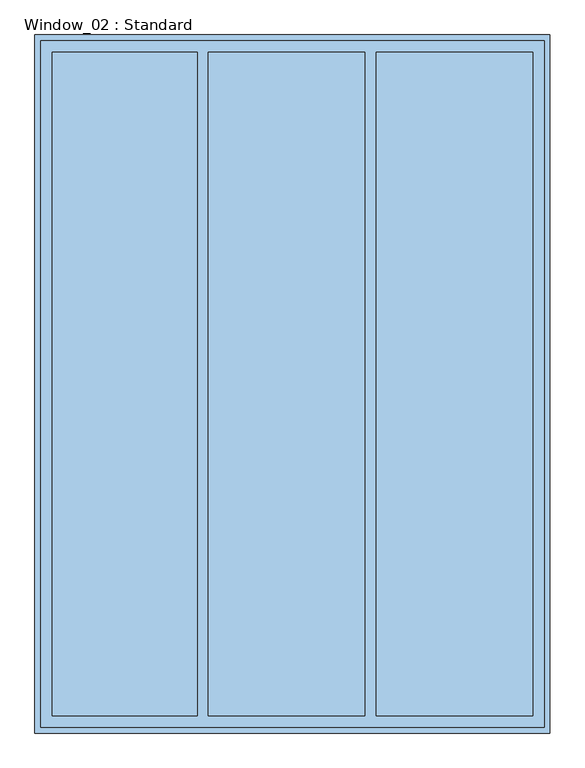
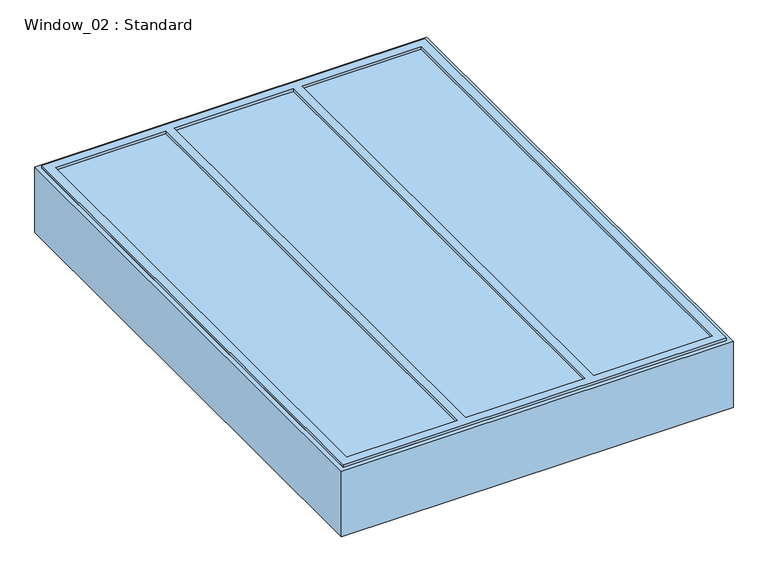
"""IFC4 building model written with IfcOpenShell, lengths in millimetres: window geometry, Window_02 : Standard."""

from ifc_helpers import new_model, si_unit, frame, origin, origin_with_axes, place, context, project, spatial, polyline, outline, extrude, source, transform, mapped, element, save


def window_02_standard_f3fdb80f(model_context):
    return source(origin(), model_context, "Body", "SweptSolid", [
        extrude(outline(polyline([(-880.0, -1200.0), (-880.0, 1200.0), (880.0, 1200.0), (880.0, -1200.0), (-880.0, -1200.0)]), holes=[polyline([(-840.0, 1160.0), (-840.0, -1160.0), (-333.3333333, -1160.0), (-333.3333333, 1160.0), (-840.0, 1160.0)]), polyline([(253.3333333, 1160.0), (-293.3333333, 1160.0), (-293.3333333, -1160.0), (253.3333333, -1160.0), (253.3333333, 1160.0)]), polyline([(293.3333333, -1160.0), (840.0, -1160.0), (840.0, 1160.0), (293.3333333, 1160.0), (293.3333333, -1160.0)])]), frame((0.0, 0.0, 315.094128), z_axis=(0.0, 0.0, 1.0), x_axis=(1.0, 0.0, 0.0)), (0.0, 0.0, 1.0), 17.0543259),
        extrude(outline(polyline([(-840.0, 1160.0), (840.0, 1160.0), (840.0, -1160.0), (-840.0, -1160.0), (-840.0, 1160.0)])), frame((0.0, 0.0, 315.094128), z_axis=(0.0, 0.0, 1.0), x_axis=(1.0, 0.0, 0.0)), (0.0, 0.0, 1.0), 4.905872),
        extrude(outline(polyline([(880.0, 1200.0), (880.0, -1200.0), (-880.0, -1200.0), (-880.0, 1200.0), (880.0, 1200.0)]), holes=[polyline([(-840.0, 1160.0), (-840.0, -1160.0), (840.0, -1160.0), (840.0, 1160.0), (-840.0, 1160.0)])]), frame((0.0, 0.0, 250.0), z_axis=(0.0, 0.0, 1.0), x_axis=(1.0, 0.0, 0.0)), (0.0, 0.0, 1.0), 70.0),
        extrude(outline(polyline([(900.0, 1220.0), (900.0, -1220.0), (-900.0, -1220.0), (-900.0, 1220.0), (900.0, 1220.0)]), holes=[polyline([(880.0, 1200.0), (-880.0, 1200.0), (-880.0, -1200.0), (880.0, -1200.0), (880.0, 1200.0)])]), origin_with_axes(), (0.0, 0.0, 1.0), 320.0),
    ])


if __name__ == "__main__":
    model = new_model("IFC4")
    model_context = context("Model", 3, world=origin())
    ifc_project = project(units=[si_unit("LENGTHUNIT", "METRE", prefix="MILLI")], contexts=[model_context])
    site = spatial("IfcSite", under=ifc_project)
    building = spatial("IfcBuilding", under=site)
    placement = place(None, origin())
    window_02_standard_shape = window_02_standard_f3fdb80f(model_context)
    element("IfcWindow", 1, ObjectType="Window_02 : Standard", at=placement, inside=building, context=model_context, shape_type="MappedRepresentation", body=[
        mapped(window_02_standard_shape, transform((0.0, 0.0, 0.0), x_axis=(1.0, 0.0, 0.0), y_axis=(0.0, 1.0, 0.0), z_axis=(0.0, 0.0, 1.0))),
    ])
    save(model, "model.ifc")
